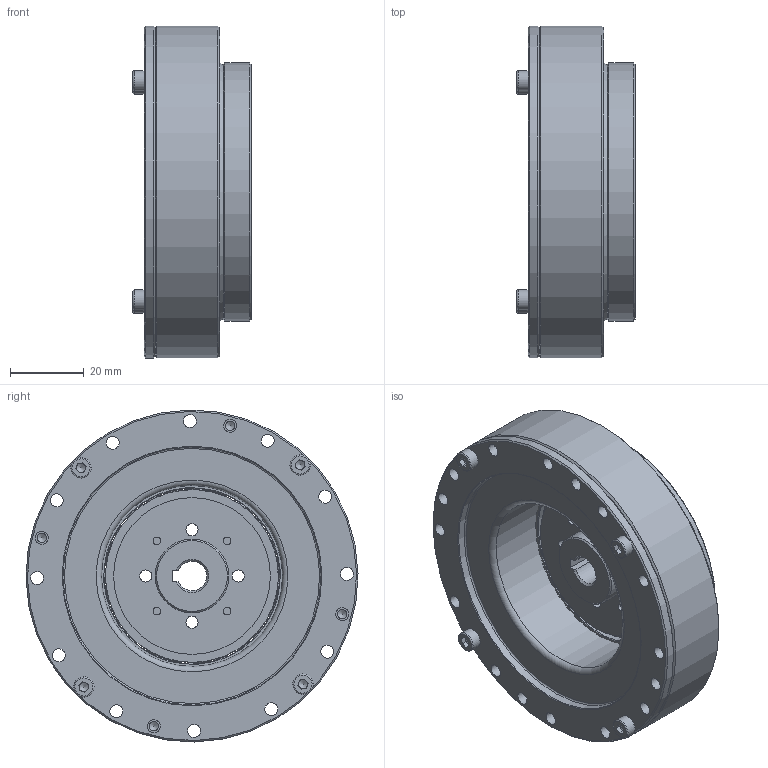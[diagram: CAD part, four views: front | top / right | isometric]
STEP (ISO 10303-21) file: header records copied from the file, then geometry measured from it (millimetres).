
FILE_DESCRIPTION (( 'STEP AP203' ), '1' );
FILE_NAME ('LHSG-20-XXX-C-I-D1.STEP', '2025-07-15T05:51:55', ( '' ), ( '' ), 'SwSTEP 2.0', 'SolidWorks 2023', '' );
FILE_SCHEMA (( 'CONFIG_CONTROL_DESIGN' ));
Length unit declared in the file: millimetre
Products named in the file (1): LHSG-20-XXX-C-I-D1
Bounding box: 32 x 89.99 x 89.99 mm (x, y, z)
Volume: 98641.1 mm3; surface area: 81817.6 mm2
Topology: 45 solids, 45 shells, 699 faces, 1717 edges, 1089 vertices
Faces by surface type: plane 300, cylinder 218, cone 117, torus 41, sphere 23
Full cylindrical faces by diameter (mm): 2.05 x4, 2.5 x36, 2.9 x4, 3 x8, 3.3 x4, 3.5 x36, 3.7 x16, 4.5 x4, 4.7 x4, 5.5 x8, 5.8 x4, 20 x3, 34 x2, 36 x1, 37 x1, 37.6 x1, 38.5 x1, 39.499 x2, 40.17 x1, 42.5 x1, 46.83 x1, 47.507 x2, 49.086 x1, 49.882 x1, 50 x1, 50.266 x1, 51.2 x1, 54 x1, 55 x2, 57.6 x1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
Entity records: 17931 total; most frequent: DIRECTION 3308, CARTESIAN_POINT 3040, ORIENTED_EDGE 2458, AXIS2_PLACEMENT_3D 1435, EDGE_CURVE 1229, EDGE_LOOP 1162, VERTEX_POINT 919, FACE_OUTER_BOUND 888
